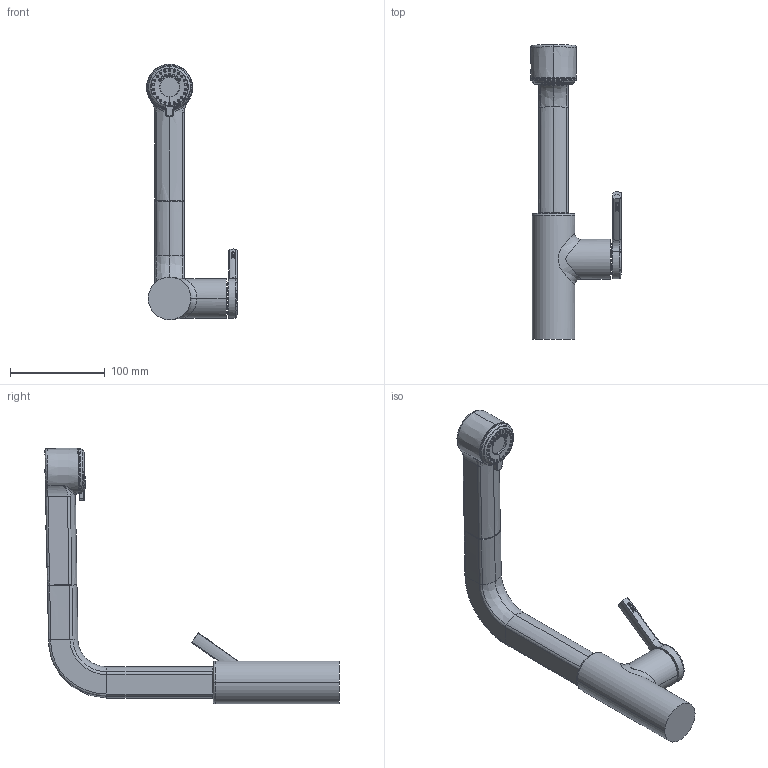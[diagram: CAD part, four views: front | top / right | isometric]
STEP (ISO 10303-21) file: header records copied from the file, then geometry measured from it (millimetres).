
FILE_DESCRIPTION((''),'2;1');
FILE_NAME('509589_MEDIA_SW0001','2021-02-05T13:43:37',('KS894'),(''),'CREO PARAMETRIC BY PTC INC, 2018500','CREO PARAMETRIC BY PTC INC, 2018500','');
FILE_SCHEMA(('CONFIG_CONTROL_DESIGN'));
Length unit declared in the file: millimetre
Products named in the file (1): 509589_MEDIA_SW0001
Bounding box: 95.87 x 310.08 x 269.38 mm (x, y, z)
Volume: 670544.5 mm3; surface area: 82654.2 mm2
Topology: 3 solids, 3 shells, 482 faces, 1112 edges, 683 vertices
Faces by surface type: plane 106, bspline 95, cylinder 88, torus 80, cone 67, sphere 38, extrusion 8
Entity records: 24285 total; most frequent: CARTESIAN_POINT 14233, ORIENTED_EDGE 2198, DIRECTION 1847, EDGE_CURVE 1099, AXIS2_PLACEMENT_3D 773, VERTEX_POINT 683, EDGE_LOOP 542, FACE_OUTER_BOUND 482
